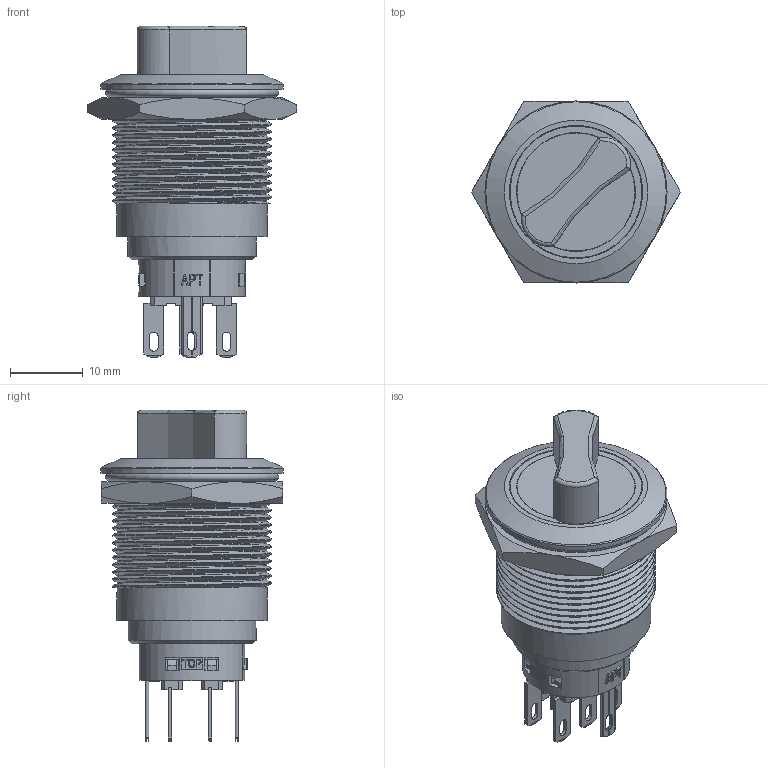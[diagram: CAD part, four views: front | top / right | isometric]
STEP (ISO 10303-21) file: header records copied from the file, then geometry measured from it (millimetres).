
FILE_DESCRIPTION(/* description */ (''),/* implementation_level */ '2;1');
FILE_NAME(/* name */ 'FM22N-SFP-22XD1.stp',/* time_stamp */ '2020-08-04T17:02:12+08:00',/* author */ (''),/* organization */ (''),/* preprocessor_version */ 'ST-DEVELOPER v16.7',/* originating_system */ 'SIEMENS PLM Software NX 12.0',/* authorisation */ '');
FILE_SCHEMA (('AUTOMOTIVE_DESIGN { 1 0 10303 214 3 1 1 1 }'));
Length unit declared in the file: millimetre
Products named in the file (1): Admi4F983F75j3g7
Bounding box: 28.7 x 25 x 45.48 mm (x, y, z)
Volume: 7284.4 mm3; surface area: 12185 mm2
Topology: 5 solids, 7 shells, 1351 faces, 4010 edges, 2626 vertices
Faces by surface type: plane 1073, cylinder 212, cone 27, extrusion 24, torus 8, bspline 7
Full cylindrical faces by diameter (mm): 0.5 x1, 1 x4, 2 x1, 2.4 x1, 2.6 x1, 3 x1, 10.2 x1, 12 x1, 13 x1, 14.6 x1, 14.7 x1, 16.2 x1, 16.3 x1, 17.6 x1, 18.1 x1, 18.2 x1, 18.3 x1, 19.7 x1, 19.9 x1, 20.6 x16, 25 x1
Entity records: 53661 total; most frequent: CARTESIAN_POINT 12093, ORIENTED_EDGE 7842, DIRECTION 6934, EDGE_CURVE 3921, VECTOR 3252, LINE 3228, VERTEX_POINT 2585, AXIS2_PLACEMENT_3D 1841
